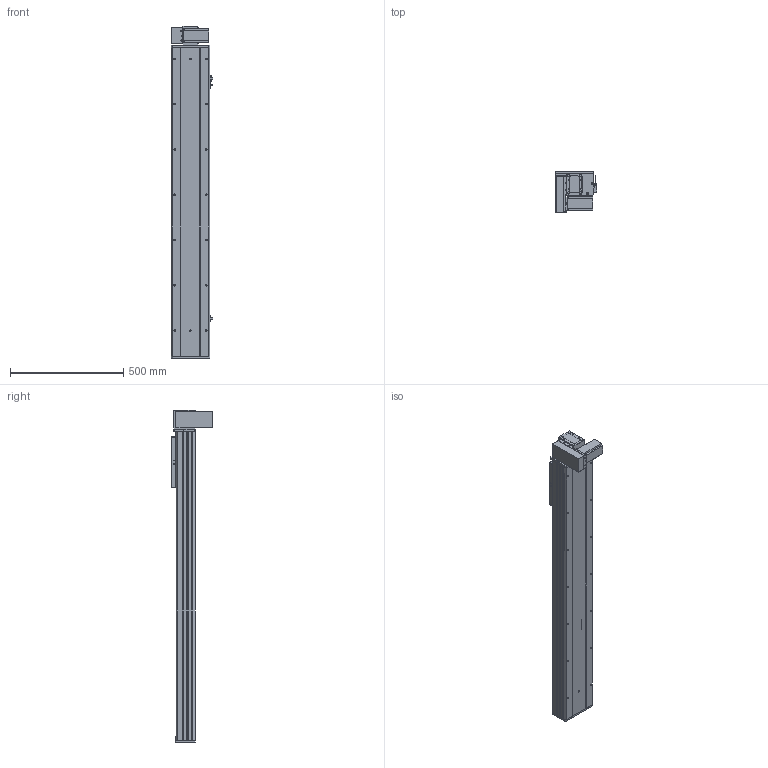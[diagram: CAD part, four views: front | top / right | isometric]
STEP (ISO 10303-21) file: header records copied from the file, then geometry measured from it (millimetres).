
FILE_DESCRIPTION (( 'STEP AP203' ), '1' );
FILE_NAME ('Y170CB-D105-S1050-BM-P400W.STEP', '2020-02-20T06:26:33', ( '微软用户' ), ( '微软中国' ), 'SwSTEP 2.0', 'SolidWorks 2017', '' );
FILE_SCHEMA (( 'CONFIG_CONTROL_DESIGN' ));
Length unit declared in the file: millimetre
Products named in the file (18): Y170CB-D105-S1050-BM-P400W; 0C--雄赽釱俋欶-170; B-源倛裔啣; 70CB-詩湍--; 0B-萇儂楊擘啣; Y100-135俋离換覜ん--; san松下电机400不带刹车----; Y170CB-陔俋离換覜結え---; 70CB-掛极-; Y1埴倛裔; --70CB --喘謫眊楊擘啣-; 17B-耜蚾蟀諉啣----; 70CB-耜裔啣-; 00B-俋欶BM--163; 70C--詩湍揤踡え-; 70B喘謫眊----; 70CB--耜裔; 70C-雄赽釱-奻-
Assembly tree (21 placements, depth 2):
  Y170CB-D105-S1050-BM-P400W
    B-源倛裔啣
    0B-萇儂楊擘啣
    san松下电机400不带刹车----
    70CB-掛极-
    --70CB --喘謫眊楊擘啣-
    70CB-耜裔啣-  x2
    70C--詩湍揤踡え-  x2
    70CB--耜裔
    70C-雄赽釱-奻-
    0C--雄赽釱俋欶-170
    70CB-詩湍--
    Y100-135俋离換覜ん--  x3
    Y170CB-陔俋离換覜結え---
    Y1埴倛裔
    17B-耜蚾蟀諉啣----
    00B-俋欶BM--163
    70B喘謫眊----
Bounding box: 183.5 x 184 x 1466 mm (x, y, z)
Volume: 6736761.3 mm3; surface area: 2415335.5 mm2
Topology: 21 solids, 21 shells, 1007 faces, 2693 edges, 1786 vertices
Faces by surface type: cylinder 521, plane 462, cone 24
Entity records: 32036 total; most frequent: CARTESIAN_POINT 5856, DIRECTION 5210, ORIENTED_EDGE 4868, EDGE_CURVE 2434, AXIS2_PLACEMENT_3D 1908, VERTEX_POINT 1616, VECTOR 1394, LINE 1394
